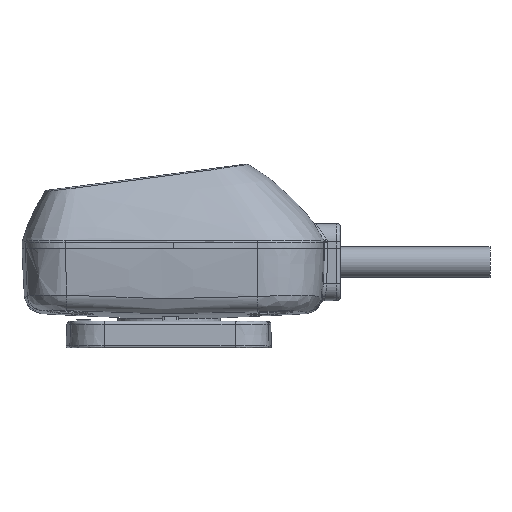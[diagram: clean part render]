
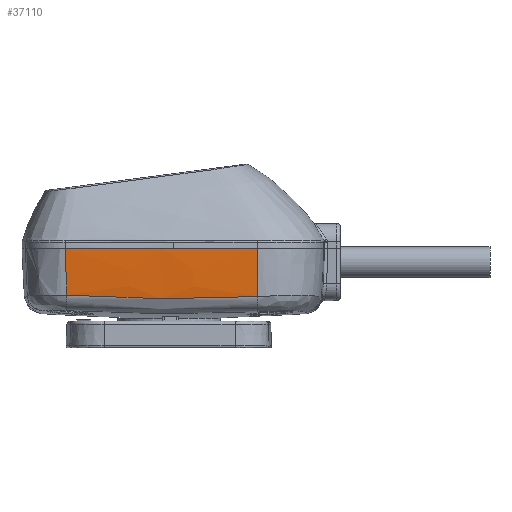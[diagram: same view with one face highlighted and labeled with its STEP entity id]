
A CAD part, left-side view. The second image highlights one B-rep face of the part: STEP entity #37110.
In plain terms, the highlighted free-form (B-spline) face has degree [3, 3] with [4, 4] control points.
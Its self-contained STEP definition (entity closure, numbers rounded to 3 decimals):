
#384 = CARTESIAN_POINT ( 'NONE',  ( -19.543, -12.162, -7.011 ) ) ;
#1385 = ORIENTED_EDGE ( 'NONE', *, *, #7548, .T. ) ;
#1767 =( BOUNDED_CURVE ( )  B_SPLINE_CURVE ( 3, ( #18410, #11565, #21217, #21380 ),
 .UNSPECIFIED., .F., .F. ) 
 B_SPLINE_CURVE_WITH_KNOTS ( ( 4, 4 ),
 ( 0., 0.028 ),
 .UNSPECIFIED. ) 
 CURVE ( )  GEOMETRIC_REPRESENTATION_ITEM ( )  RATIONAL_B_SPLINE_CURVE ( ( 1., 0.999, 0.999, 1. ) ) 
 REPRESENTATION_ITEM ( '' )  );
#2952 = VERTEX_POINT ( 'NONE', #384 ) ;
#3879 = EDGE_CURVE ( 'NONE', #15976, #11188, #7701, .T. ) ;
#4531 = B_SPLINE_CURVE_WITH_KNOTS ( 'NONE', 3,
 ( #14793, #41394, #14941, #34265, #37671, #27685 ),
 .UNSPECIFIED., .F., .F.,
 ( 4, 2, 4 ),
 ( 0., 0.5, 1. ),
 .UNSPECIFIED. ) ;
#5448 = ORIENTED_EDGE ( 'NONE', *, *, #3879, .F. ) ;
#5630 = CARTESIAN_POINT ( 'NONE',  ( -19.541, 15.987, -5.796 ) ) ;
#5847 = CARTESIAN_POINT ( 'NONE',  ( -19.738, 15.828, 0. ) ) ;
#5869 = B_SPLINE_CURVE_WITH_KNOTS ( 'NONE', 3,
 ( #37296, #37156, #27455, #37013, #24625, #30742, #17529, #14560, #14713 ),
 .UNSPECIFIED., .F., .F.,
 ( 4, 2, 1, 2, 4 ),
 ( 0., 0.125, 0.25, 0.5, 1. ),
 .UNSPECIFIED. ) ;
#7289 =( BOUNDED_SURFACE ( )  B_SPLINE_SURFACE ( 3, 3, ( 
 ( #24937, #31775, #8634, #8908 ),
 ( #21539, #38049, #37775, #31495 ),
 ( #15160, #41049, #31639, #5630 ),
 ( #40898, #21394, #28205, #12148 ) ),
 .UNSPECIFIED., .F., .F., .F. ) 
 B_SPLINE_SURFACE_WITH_KNOTS ( ( 4, 4 ),
 ( 4, 4 ),
 ( 0., 1. ),
 ( 0., 1. ),
 .UNSPECIFIED. ) 
 GEOMETRIC_REPRESENTATION_ITEM ( )  RATIONAL_B_SPLINE_SURFACE ( (
 ( 1., 0.999, 0.999, 1.),
 ( 1., 0.999, 0.999, 1.),
 ( 1., 0.999, 0.999, 1.),
 ( 1., 0.999, 0.999, 1.) ) ) 
 REPRESENTATION_ITEM ( '' )  SURFACE ( )  );
#7548 = EDGE_CURVE ( 'NONE', #36928, #11188, #1767, .T. ) ;
#7701 = B_SPLINE_CURVE_WITH_KNOTS ( 'NONE', 3,
 ( #15393, #28288, #28717, #38144, #12237, #8861, #9270, #31436, #18632, #38292, #18774, #12518, #15808, #5847 ),
 .UNSPECIFIED., .F., .F.,
 ( 4, 2, 2, 2, 2, 2, 4 ),
 ( 0., 0.125, 0.25, 0.5, 0.75, 0.875, 1. ),
 .UNSPECIFIED. ) ;
#8634 = CARTESIAN_POINT ( 'NONE',  ( -20.164, 6.611, 0. ) ) ;
#8861 = CARTESIAN_POINT ( 'NONE',  ( -19.601, 15.699, -4.383 ) ) ;
#8908 = CARTESIAN_POINT ( 'NONE',  ( -19.73, 15.996, 0. ) ) ;
#9213 = FACE_OUTER_BOUND ( 'NONE', #13097, .T. ) ;
#9270 = CARTESIAN_POINT ( 'NONE',  ( -19.626, 15.722, -3.82 ) ) ;
#9584 = ORIENTED_EDGE ( 'NONE', *, *, #15421, .F. ) ;
#11188 = VERTEX_POINT ( 'NONE', #16570 ) ;
#11565 = CARTESIAN_POINT ( 'NONE',  ( -20.214, -2.84, 0. ) ) ;
#12148 = CARTESIAN_POINT ( 'NONE',  ( -19.347, 15.978, -7.367 ) ) ;
#12237 = CARTESIAN_POINT ( 'NONE',  ( -19.551, 15.655, -5.256 ) ) ;
#12518 = CARTESIAN_POINT ( 'NONE',  ( -19.727, 15.817, -0.536 ) ) ;
#13097 = EDGE_LOOP ( 'NONE', ( #9584, #17744, #1385, #5448 ) ) ;
#14560 = CARTESIAN_POINT ( 'NONE',  ( -19.628, -12.165, -6.236 ) ) ;
#14713 = CARTESIAN_POINT ( 'NONE',  ( -19.543, -12.162, -7.011 ) ) ;
#14793 = CARTESIAN_POINT ( 'NONE',  ( -19.543, -12.162, -7.011 ) ) ;
#14941 = CARTESIAN_POINT ( 'NONE',  ( -19.735, -2.922, -7.366 ) ) ;
#15024 = CARTESIAN_POINT ( 'NONE',  ( -19.429, 15.555, -6.807 ) ) ;
#15160 = CARTESIAN_POINT ( 'NONE',  ( -19.697, -12.167, -5.796 ) ) ;
#15393 = CARTESIAN_POINT ( 'NONE',  ( -19.429, 15.555, -6.807 ) ) ;
#15421 = EDGE_CURVE ( 'NONE', #2952, #15976, #4531, .T. ) ;
#15808 = CARTESIAN_POINT ( 'NONE',  ( -19.733, 15.823, -0.266 ) ) ;
#15976 = VERTEX_POINT ( 'NONE', #15024 ) ;
#16570 = CARTESIAN_POINT ( 'NONE',  ( -19.738, 15.828, 0. ) ) ;
#17529 = CARTESIAN_POINT ( 'NONE',  ( -19.697, -12.167, -5.305 ) ) ;
#17744 = ORIENTED_EDGE ( 'NONE', *, *, #32238, .F. ) ;
#18410 = CARTESIAN_POINT ( 'NONE',  ( -19.886, -12.174, 0. ) ) ;
#18632 = CARTESIAN_POINT ( 'NONE',  ( -19.686, 15.777, -2.161 ) ) ;
#18774 = CARTESIAN_POINT ( 'NONE',  ( -19.714, 15.805, -1.076 ) ) ;
#21217 = CARTESIAN_POINT ( 'NONE',  ( -20.165, 6.499, 0. ) ) ;
#21380 = CARTESIAN_POINT ( 'NONE',  ( -19.738, 15.828, 0. ) ) ;
#21394 = CARTESIAN_POINT ( 'NONE',  ( -19.832, -2.781, -7.367 ) ) ;
#21539 = CARTESIAN_POINT ( 'NONE',  ( -19.812, -12.171, -3.544 ) ) ;
#24625 = CARTESIAN_POINT ( 'NONE',  ( -19.817, -12.171, -2.64 ) ) ;
#24937 = CARTESIAN_POINT ( 'NONE',  ( -19.886, -12.174, 0. ) ) ;
#27455 = CARTESIAN_POINT ( 'NONE',  ( -19.868, -12.173, -0.804 ) ) ;
#27685 = CARTESIAN_POINT ( 'NONE',  ( -19.429, 15.555, -6.807 ) ) ;
#28205 = CARTESIAN_POINT ( 'NONE',  ( -19.78, 6.603, -7.367 ) ) ;
#28288 = CARTESIAN_POINT ( 'NONE',  ( -19.462, 15.58, -6.474 ) ) ;
#28717 = CARTESIAN_POINT ( 'NONE',  ( -19.488, 15.601, -6.161 ) ) ;
#30742 = CARTESIAN_POINT ( 'NONE',  ( -19.78, -12.17, -3.582 ) ) ;
#31436 = CARTESIAN_POINT ( 'NONE',  ( -19.669, 15.761, -2.708 ) ) ;
#31495 = CARTESIAN_POINT ( 'NONE',  ( -19.656, 15.992, -3.544 ) ) ;
#31639 = CARTESIAN_POINT ( 'NONE',  ( -19.975, 6.607, -5.796 ) ) ;
#31775 = CARTESIAN_POINT ( 'NONE',  ( -20.216, -2.784, 0. ) ) ;
#32238 = EDGE_CURVE ( 'NONE', #36928, #2952, #5869, .T. ) ;
#34206 = CARTESIAN_POINT ( 'NONE',  ( -19.886, -12.174, 0. ) ) ;
#34265 = CARTESIAN_POINT ( 'NONE',  ( -19.698, 6.325, -7.296 ) ) ;
#36928 = VERTEX_POINT ( 'NONE', #34206 ) ;
#37013 = CARTESIAN_POINT ( 'NONE',  ( -19.849, -12.172, -1.558 ) ) ;
#37110 = ADVANCED_FACE ( 'NONE', ( #9213 ), #7289, .F. ) ;
#37156 = CARTESIAN_POINT ( 'NONE',  ( -19.877, -12.173, -0.409 ) ) ;
#37296 = CARTESIAN_POINT ( 'NONE',  ( -19.886, -12.174, 0. ) ) ;
#37671 = CARTESIAN_POINT ( 'NONE',  ( -19.605, 10.942, -7.118 ) ) ;
#37775 = CARTESIAN_POINT ( 'NONE',  ( -20.09, 6.609, -3.544 ) ) ;
#38049 = CARTESIAN_POINT ( 'NONE',  ( -20.142, -2.784, -3.544 ) ) ;
#38144 = CARTESIAN_POINT ( 'NONE',  ( -19.533, 15.638, -5.552 ) ) ;
#38292 = CARTESIAN_POINT ( 'NONE',  ( -19.708, 15.799, -1.346 ) ) ;
#40898 = CARTESIAN_POINT ( 'NONE',  ( -19.502, -12.16, -7.367 ) ) ;
#41049 = CARTESIAN_POINT ( 'NONE',  ( -20.027, -2.783, -5.796 ) ) ;
#41394 = CARTESIAN_POINT ( 'NONE',  ( -19.679, -7.546, -7.257 ) ) ;
